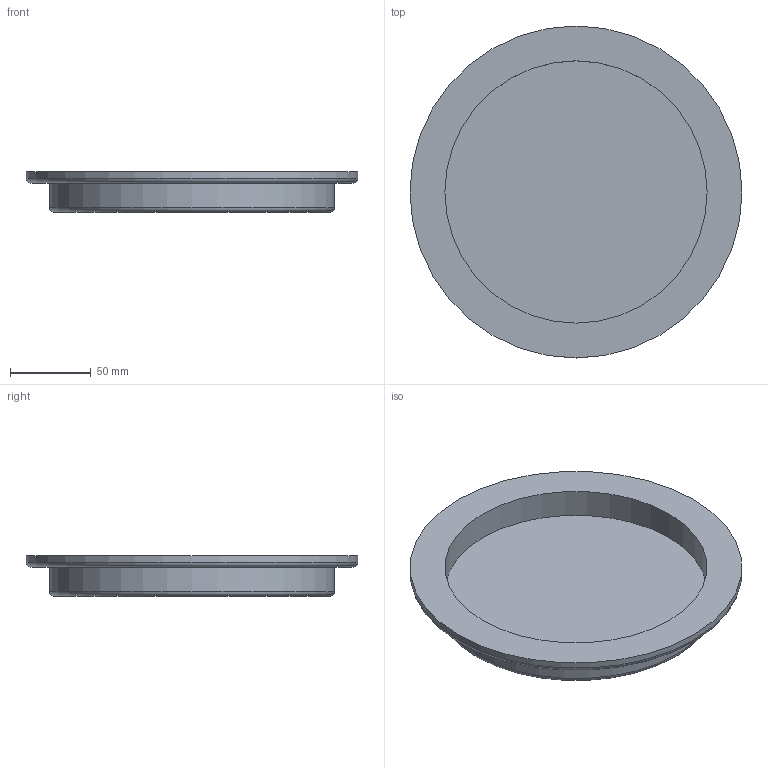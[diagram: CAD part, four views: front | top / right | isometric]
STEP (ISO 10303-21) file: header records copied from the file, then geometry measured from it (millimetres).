
FILE_DESCRIPTION((''),'2;1');
FILE_NAME('U:\Wolfgang\Marcel-3D\fertig\Kapitel 4\1701140.stp','2011-04-21T08:26:14',('TK1'),(''),'Autodesk Inventor 2010','Autodesk Inventor 2010','');
FILE_SCHEMA(('AUTOMOTIVE_DESIGN { 1 0 10303 214 1 1 1 1 }'));
Length unit declared in the file: millimetre
Products named in the file (1): 1701140
Bounding box: 205 x 205 x 25 mm (x, y, z)
Volume: 295646 mm3; surface area: 88085.1 mm2
Topology: 1 solids, 1 shells, 9 faces, 13 edges, 8 vertices
Faces by surface type: plane 4, cylinder 3, torus 2
Full cylindrical faces by diameter (mm): 162 x1, 176 x1, 205 x1
Entity records: 200 total; most frequent: DIRECTION 36, CARTESIAN_POINT 26, AXIS2_PLACEMENT_3D 18, ORIENTED_EDGE 16, EDGE_LOOP 16, FACE_OUTER_BOUND 9, ADVANCED_FACE 9, VERTEX_POINT 8
